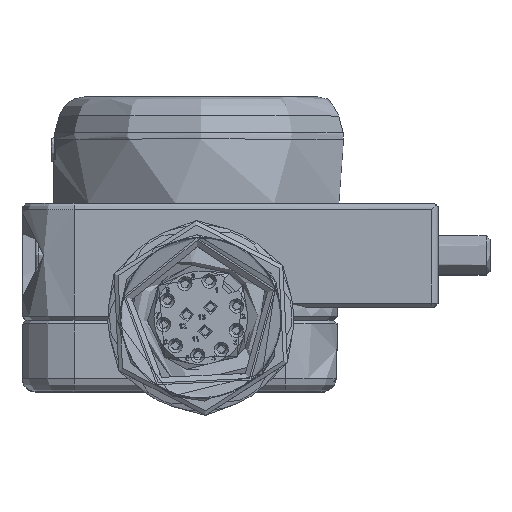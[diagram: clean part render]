
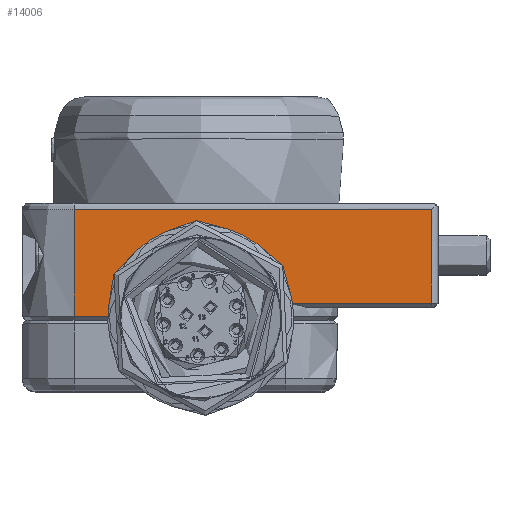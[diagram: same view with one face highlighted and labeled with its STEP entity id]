
A CAD part, top view. The second image highlights one B-rep face of the part: STEP entity #14006.
In plain terms, the highlighted planar face has unit normal (0, 0, 1).
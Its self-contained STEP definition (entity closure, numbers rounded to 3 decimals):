
#572=PLANE('',#14916);
#1717=FACE_OUTER_BOUND('',#2543,.T.);
#2543=EDGE_LOOP('',(#9878,#9879,#9880,#9881,#9882,#9883,#9884,#9885,#9886));
#3800=CIRCLE('',#14917,4.4);
#3801=CIRCLE('',#14918,4.4);
#4384=LINE('',#20318,#5372);
#4417=LINE('',#20426,#5405);
#4420=LINE('',#20437,#5408);
#4431=LINE('',#20471,#5419);
#4432=LINE('',#20473,#5420);
#4433=LINE('',#20475,#5421);
#4434=LINE('',#20477,#5422);
#5372=VECTOR('',#16297,10.);
#5405=VECTOR('',#16400,10.);
#5408=VECTOR('',#16405,10.);
#5419=VECTOR('',#16442,10.);
#5420=VECTOR('',#16443,10.);
#5421=VECTOR('',#16444,10.);
#5422=VECTOR('',#16445,10.);
#6397=VERTEX_POINT('',#20311);
#6400=VERTEX_POINT('',#20316);
#6438=VERTEX_POINT('',#20419);
#6440=VERTEX_POINT('',#20425);
#6451=VERTEX_POINT('',#20470);
#6452=VERTEX_POINT('',#20472);
#6453=VERTEX_POINT('',#20474);
#6454=VERTEX_POINT('',#20476);
#6455=VERTEX_POINT('',#20478);
#7718=EDGE_CURVE('',#6400,#6397,#4384,.T.);
#7771=EDGE_CURVE('',#6438,#6440,#4417,.T.);
#7775=EDGE_CURVE('',#6438,#6397,#4420,.T.);
#7791=EDGE_CURVE('',#6451,#6400,#4431,.T.);
#7792=EDGE_CURVE('',#6452,#6451,#4432,.T.);
#7793=EDGE_CURVE('',#6453,#6452,#4433,.T.);
#7794=EDGE_CURVE('',#6454,#6453,#4434,.T.);
#7795=EDGE_CURVE('',#6455,#6454,#3800,.T.);
#7796=EDGE_CURVE('',#6440,#6455,#3801,.T.);
#9878=ORIENTED_EDGE('',*,*,#7718,.F.);
#9879=ORIENTED_EDGE('',*,*,#7791,.F.);
#9880=ORIENTED_EDGE('',*,*,#7792,.F.);
#9881=ORIENTED_EDGE('',*,*,#7793,.F.);
#9882=ORIENTED_EDGE('',*,*,#7794,.F.);
#9883=ORIENTED_EDGE('',*,*,#7795,.F.);
#9884=ORIENTED_EDGE('',*,*,#7796,.F.);
#9885=ORIENTED_EDGE('',*,*,#7771,.F.);
#9886=ORIENTED_EDGE('',*,*,#7775,.T.);
#14006=ADVANCED_FACE('',(#1717),#572,.T.);
#14916=AXIS2_PLACEMENT_3D('',#20469,#16440,#16441);
#14917=AXIS2_PLACEMENT_3D('',#20479,#16446,#16447);
#14918=AXIS2_PLACEMENT_3D('',#20480,#16448,#16449);
#16297=DIRECTION('',(-1.,0.,0.));
#16400=DIRECTION('',(-1.,0.,0.));
#16405=DIRECTION('',(0.,1.,0.));
#16440=DIRECTION('center_axis',(0.,0.,
1.));
#16441=DIRECTION('ref_axis',(0.,1.,0.));
#16442=DIRECTION('',(0.,-1.,0.));
#16443=DIRECTION('',(1.,0.,0.));
#16444=DIRECTION('',(0.,1.,0.));
#16445=DIRECTION('',(-1.,0.,0.));
#16446=DIRECTION('center_axis',(0.,0.,
1.));
#16447=DIRECTION('ref_axis',(0.,1.,0.));
#16448=DIRECTION('center_axis',(0.,0.,
1.));
#16449=DIRECTION('ref_axis',(0.,1.,0.));
#20311=CARTESIAN_POINT('',(-11.75,-26.468,17.));
#20316=CARTESIAN_POINT('',(-0.5,-26.468,17.));
#20318=CARTESIAN_POINT('',(-1.125,-26.468,17.));
#20419=CARTESIAN_POINT('',(-11.75,-27.468,17.));
#20425=CARTESIAN_POINT('',(-13.86,-27.468,17.));
#20426=CARTESIAN_POINT('',(-8.,-27.468,17.));
#20437=CARTESIAN_POINT('',(-11.75,-25.518,17.));
#20469=CARTESIAN_POINT('Origin',(0.,-23.268,
17.));
#20470=CARTESIAN_POINT('',(-0.5,-19.268,17.));
#20471=CARTESIAN_POINT('',(-0.5,-27.768,17.));
#20472=CARTESIAN_POINT('',(-28.,-19.268,17.));
#20473=CARTESIAN_POINT('',(-8.,-19.268,17.));
#20474=CARTESIAN_POINT('',(-28.,-27.468,17.));
#20475=CARTESIAN_POINT('',(-28.,-23.268,17.));
#20476=CARTESIAN_POINT('',(-22.64,-27.468,17.));
#20477=CARTESIAN_POINT('',(-8.,-27.468,17.));
#20478=CARTESIAN_POINT('',(-18.25,-23.368,17.));
#20479=CARTESIAN_POINT('Origin',(-18.25,-27.768,17.));
#20480=CARTESIAN_POINT('Origin',(-18.25,-27.768,17.));
